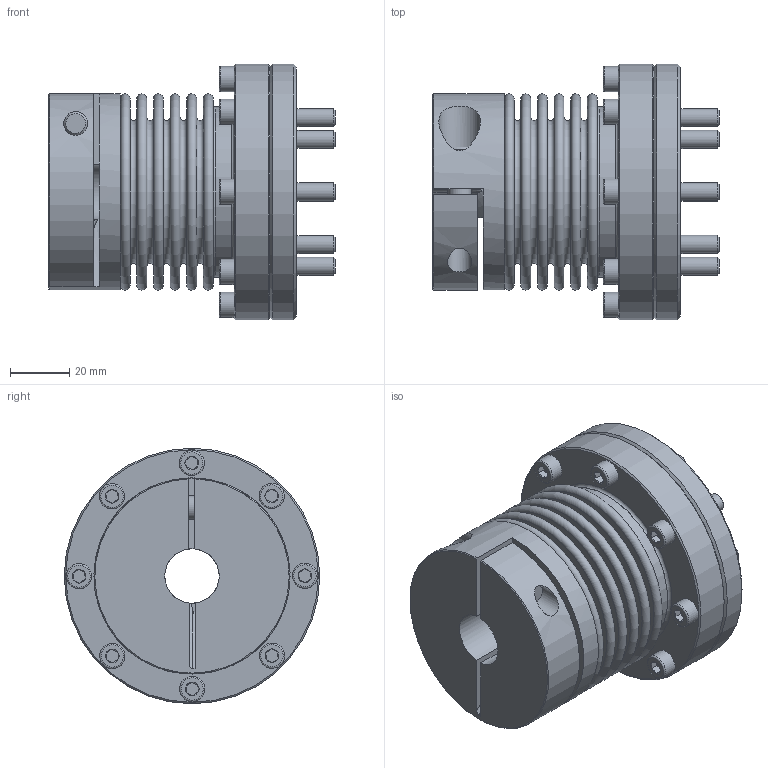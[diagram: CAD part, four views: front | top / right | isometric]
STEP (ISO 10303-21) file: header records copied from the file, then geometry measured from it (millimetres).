
FILE_DESCRIPTION( ( 'Unknown' ), '1' );
FILE_NAME( 'C:/Users/skarpstein/Desktop/KB4F/KB4F-60-78.stp', 'Unknown', ( 'Unknown' ), ( 'Unknown' ), 'PSStep 16.0.42', 'Unknown', ' ' );
FILE_SCHEMA( ( 'AUTOMOTIVE_DESIGN { 1 0 10303 214 1 1 1 1 }' ) );
Length unit declared in the file: millimetre
Products named in the file (8): Assem1; KN60C_Standard; Socket Head Cap Screw_DIN_DIN 912 M8 x 25 --- 25N_1; ISO 4017 - M6 x 25-N; ISO EN DIN 4762 M5x20; Kupplungsflansch F60; Flansch A50-F60; BL60_Standard_0
Assembly tree (21 placements, depth 2):
  Assem1
    KN60C_Standard
    Socket Head Cap Screw_DIN_DIN 912 M8 x 25 --- 25N_1
    ISO 4017 - M6 x 25-N  x8
    ISO EN DIN 4762 M5x20  x8
    Kupplungsflansch F60
    Flansch A50-F60
    BL60_Standard_0
Bounding box: 96.3 x 86 x 86 mm (x, y, z)
Volume: 178677.6 mm3; surface area: 108671.9 mm2
Topology: 21 solids, 21 shells, 517 faces, 1047 edges, 626 vertices
Faces by surface type: plane 259, cone 126, cylinder 79, torus 53
Full cylindrical faces by diameter (mm): 4.134 x8, 5 x8, 5.5 x8, 6 x8, 6.6 x8, 8 x2, 8.5 x9, 10 x8, 13 x1, 14 x1, 18.309 x1, 36 x2, 56.3 x3, 57.3 x2, 63 x1, 65 x2, 66 x1, 86 x2
Entity records: 6731 total; most frequent: CARTESIAN_POINT 1029, DIRECTION 891, ORIENTED_EDGE 582, AXIS2_PLACEMENT_3D 410, EDGE_LOOP 380, EDGE_CURVE 291, FACE_OUTER_BOUND 272, VERTEX_POINT 250
